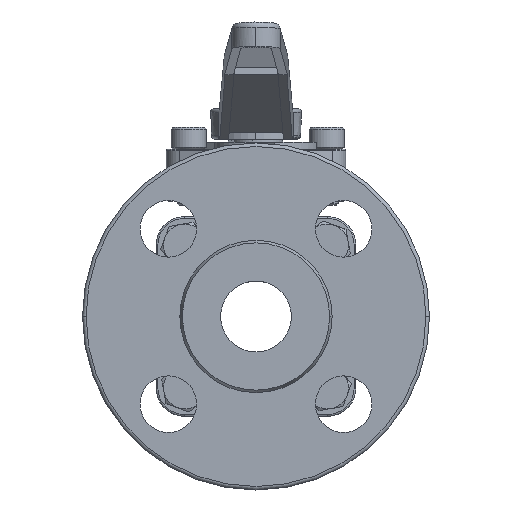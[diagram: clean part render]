
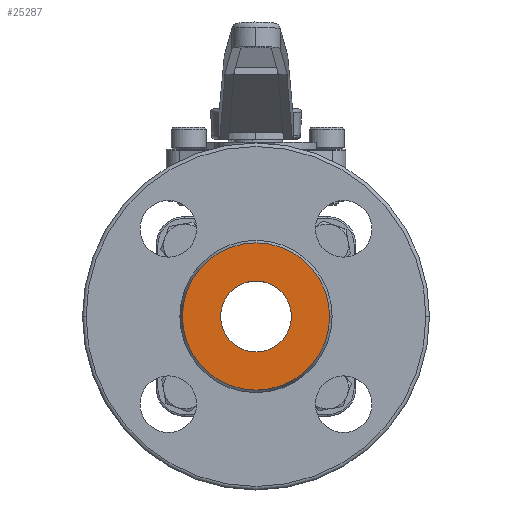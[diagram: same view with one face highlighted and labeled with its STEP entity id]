
A CAD part, left-side view. The second image highlights one B-rep face of the part: STEP entity #25287.
In plain terms, the highlighted planar face has unit normal (-1, 0, 0).
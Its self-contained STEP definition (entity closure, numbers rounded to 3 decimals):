
#8494 = EDGE_CURVE('',#8495,#8497,#8499,.T.);
#8495 = VERTEX_POINT('',#8496);
#8496 = CARTESIAN_POINT('',(-75.384,5.274,
    0.));
#8497 = VERTEX_POINT('',#8498);
#8498 = CARTESIAN_POINT('',(-75.384,-36.311,
    0.));
#8499 = SURFACE_CURVE('',#8500,(#8505,#8517),.PCURVE_S1.);
#8500 = CIRCLE('',#8501,20.792);
#8501 = AXIS2_PLACEMENT_3D('',#8502,#8503,#8504);
#8502 = CARTESIAN_POINT('',(-75.384,-15.519,0.));
#8503 = DIRECTION('',(1.,0.,0.));
#8504 = DIRECTION('',(-0.,1.,0.));
#8505 = PCURVE('',#8506,#8511);
#8506 = CONICAL_SURFACE('',#8507,21.5,0.416);
#8507 = AXIS2_PLACEMENT_3D('',#8508,#8509,#8510);
#8508 = CARTESIAN_POINT('',(-73.784,-15.519,0.));
#8509 = DIRECTION('',(1.,0.,0.));
#8510 = DIRECTION('',(-0.,1.,0.));
#8511 = DEFINITIONAL_REPRESENTATION('',(#8512),#8516);
#8512 = LINE('',#8513,#8514);
#8513 = CARTESIAN_POINT('',(0.,-1.6));
#8514 = VECTOR('',#8515,1.);
#8515 = DIRECTION('',(1.,0.));
#8516 = ( GEOMETRIC_REPRESENTATION_CONTEXT(2) 
PARAMETRIC_REPRESENTATION_CONTEXT() REPRESENTATION_CONTEXT('2D SPACE',''
  ) );
#8517 = PCURVE('',#8518,#8523);
#8518 = PLANE('',#8519);
#8519 = AXIS2_PLACEMENT_3D('',#8520,#8521,#8522);
#8520 = CARTESIAN_POINT('',(-75.384,-15.519,
    28.497));
#8521 = DIRECTION('',(1.,0.,0.));
#8522 = DIRECTION('',(-0.,1.,0.));
#8523 = DEFINITIONAL_REPRESENTATION('',(#8524),#8528);
#8524 = CIRCLE('',#8525,20.792);
#8525 = AXIS2_PLACEMENT_2D('',#8526,#8527);
#8526 = CARTESIAN_POINT('',(0.,-28.497));
#8527 = DIRECTION('',(1.,0.));
#8528 = ( GEOMETRIC_REPRESENTATION_CONTEXT(2) 
PARAMETRIC_REPRESENTATION_CONTEXT() REPRESENTATION_CONTEXT('2D SPACE',''
  ) );
#8546 = CONICAL_SURFACE('',#8547,21.5,0.416);
#8547 = AXIS2_PLACEMENT_3D('',#8548,#8549,#8550);
#8548 = CARTESIAN_POINT('',(-73.784,-15.519,0.));
#8549 = DIRECTION('',(1.,0.,0.));
#8550 = DIRECTION('',(-0.,1.,0.));
#11096 = CYLINDRICAL_SURFACE('',#11097,10.);
#11097 = AXIS2_PLACEMENT_3D('',#11098,#11099,#11100);
#11098 = CARTESIAN_POINT('',(-85.469,-15.519,0.));
#11099 = DIRECTION('',(-1.,0.,0.));
#11100 = DIRECTION('',(-0.,-1.,0.));
#11112 = VERTEX_POINT('',#11113);
#11113 = CARTESIAN_POINT('',(-75.384,-25.519,
    0.));
#11127 = CYLINDRICAL_SURFACE('',#11128,10.);
#11128 = AXIS2_PLACEMENT_3D('',#11129,#11130,#11131);
#11129 = CARTESIAN_POINT('',(-85.469,-15.519,0.));
#11130 = DIRECTION('',(-1.,0.,0.));
#11131 = DIRECTION('',(-0.,-1.,0.));
#11139 = EDGE_CURVE('',#11140,#11112,#11142,.T.);
#11140 = VERTEX_POINT('',#11141);
#11141 = CARTESIAN_POINT('',(-75.384,-5.519,
    0.));
#11142 = SURFACE_CURVE('',#11143,(#11148,#11155),.PCURVE_S1.);
#11143 = CIRCLE('',#11144,10.);
#11144 = AXIS2_PLACEMENT_3D('',#11145,#11146,#11147);
#11145 = CARTESIAN_POINT('',(-75.384,-15.519,0.));
#11146 = DIRECTION('',(-1.,0.,0.));
#11147 = DIRECTION('',(0.,1.,0.));
#11148 = PCURVE('',#11096,#11149);
#11149 = DEFINITIONAL_REPRESENTATION('',(#11150),#11154);
#11150 = LINE('',#11151,#11152);
#11151 = CARTESIAN_POINT('',(3.142,-10.085));
#11152 = VECTOR('',#11153,1.);
#11153 = DIRECTION('',(1.,0.));
#11154 = ( GEOMETRIC_REPRESENTATION_CONTEXT(2) 
PARAMETRIC_REPRESENTATION_CONTEXT() REPRESENTATION_CONTEXT('2D SPACE',''
  ) );
#11155 = PCURVE('',#8518,#11156);
#11156 = DEFINITIONAL_REPRESENTATION('',(#11157),#11165);
#11157 = ( BOUNDED_CURVE() B_SPLINE_CURVE(2,(#11158,#11159,#11160,#11161
    ,#11162,#11163,#11164),.UNSPECIFIED.,.T.,.F.) 
B_SPLINE_CURVE_WITH_KNOTS((1,2,2,2,2,1),(-2.094,0.,
    2.094,4.189,6.283,8.378),
.UNSPECIFIED.) CURVE() GEOMETRIC_REPRESENTATION_ITEM() 
RATIONAL_B_SPLINE_CURVE((1.,0.5,1.,0.5,1.,0.5,1.)) REPRESENTATION_ITEM(
  '') );
#11158 = CARTESIAN_POINT('',(10.,-28.497));
#11159 = CARTESIAN_POINT('',(10.,-45.818));
#11160 = CARTESIAN_POINT('',(-5.,-37.157));
#11161 = CARTESIAN_POINT('',(-20.,-28.497));
#11162 = CARTESIAN_POINT('',(-5.,-19.837));
#11163 = CARTESIAN_POINT('',(10.,-11.177));
#11164 = CARTESIAN_POINT('',(10.,-28.497));
#11165 = ( GEOMETRIC_REPRESENTATION_CONTEXT(2) 
PARAMETRIC_REPRESENTATION_CONTEXT() REPRESENTATION_CONTEXT('2D SPACE',''
  ) );
#25287 = ADVANCED_FACE('',(#25288,#25317),#8518,.F.);
#25288 = FACE_BOUND('',#25289,.T.);
#25289 = EDGE_LOOP('',(#25290,#25316));
#25290 = ORIENTED_EDGE('',*,*,#25291,.F.);
#25291 = EDGE_CURVE('',#11112,#11140,#25292,.T.);
#25292 = SURFACE_CURVE('',#25293,(#25298,#25309),.PCURVE_S1.);
#25293 = CIRCLE('',#25294,10.);
#25294 = AXIS2_PLACEMENT_3D('',#25295,#25296,#25297);
#25295 = CARTESIAN_POINT('',(-75.384,-15.519,0.));
#25296 = DIRECTION('',(-1.,0.,0.));
#25297 = DIRECTION('',(0.,1.,0.));
#25298 = PCURVE('',#8518,#25299);
#25299 = DEFINITIONAL_REPRESENTATION('',(#25300),#25308);
#25300 = ( BOUNDED_CURVE() B_SPLINE_CURVE(2,(#25301,#25302,#25303,#25304
    ,#25305,#25306,#25307),.UNSPECIFIED.,.T.,.F.) 
B_SPLINE_CURVE_WITH_KNOTS((1,2,2,2,2,1),(-2.094,0.,
    2.094,4.189,6.283,8.378),
.UNSPECIFIED.) CURVE() GEOMETRIC_REPRESENTATION_ITEM() 
RATIONAL_B_SPLINE_CURVE((1.,0.5,1.,0.5,1.,0.5,1.)) REPRESENTATION_ITEM(
  '') );
#25301 = CARTESIAN_POINT('',(10.,-28.497));
#25302 = CARTESIAN_POINT('',(10.,-45.818));
#25303 = CARTESIAN_POINT('',(-5.,-37.157));
#25304 = CARTESIAN_POINT('',(-20.,-28.497));
#25305 = CARTESIAN_POINT('',(-5.,-19.837));
#25306 = CARTESIAN_POINT('',(10.,-11.177));
#25307 = CARTESIAN_POINT('',(10.,-28.497));
#25308 = ( GEOMETRIC_REPRESENTATION_CONTEXT(2) 
PARAMETRIC_REPRESENTATION_CONTEXT() REPRESENTATION_CONTEXT('2D SPACE',''
  ) );
#25309 = PCURVE('',#11127,#25310);
#25310 = DEFINITIONAL_REPRESENTATION('',(#25311),#25315);
#25311 = LINE('',#25312,#25313);
#25312 = CARTESIAN_POINT('',(-3.142,-10.085));
#25313 = VECTOR('',#25314,1.);
#25314 = DIRECTION('',(1.,0.));
#25315 = ( GEOMETRIC_REPRESENTATION_CONTEXT(2) 
PARAMETRIC_REPRESENTATION_CONTEXT() REPRESENTATION_CONTEXT('2D SPACE',''
  ) );
#25316 = ORIENTED_EDGE('',*,*,#11139,.F.);
#25317 = FACE_BOUND('',#25318,.T.);
#25318 = EDGE_LOOP('',(#25319,#25320));
#25319 = ORIENTED_EDGE('',*,*,#8494,.F.);
#25320 = ORIENTED_EDGE('',*,*,#25321,.F.);
#25321 = EDGE_CURVE('',#8497,#8495,#25322,.T.);
#25322 = SURFACE_CURVE('',#25323,(#25328,#25335),.PCURVE_S1.);
#25323 = CIRCLE('',#25324,20.792);
#25324 = AXIS2_PLACEMENT_3D('',#25325,#25326,#25327);
#25325 = CARTESIAN_POINT('',(-75.384,-15.519,0.));
#25326 = DIRECTION('',(1.,0.,0.));
#25327 = DIRECTION('',(-0.,1.,0.));
#25328 = PCURVE('',#8518,#25329);
#25329 = DEFINITIONAL_REPRESENTATION('',(#25330),#25334);
#25330 = CIRCLE('',#25331,20.792);
#25331 = AXIS2_PLACEMENT_2D('',#25332,#25333);
#25332 = CARTESIAN_POINT('',(0.,-28.497));
#25333 = DIRECTION('',(1.,0.));
#25334 = ( GEOMETRIC_REPRESENTATION_CONTEXT(2) 
PARAMETRIC_REPRESENTATION_CONTEXT() REPRESENTATION_CONTEXT('2D SPACE',''
  ) );
#25335 = PCURVE('',#8546,#25336);
#25336 = DEFINITIONAL_REPRESENTATION('',(#25337),#25341);
#25337 = LINE('',#25338,#25339);
#25338 = CARTESIAN_POINT('',(0.,-1.6));
#25339 = VECTOR('',#25340,1.);
#25340 = DIRECTION('',(1.,0.));
#25341 = ( GEOMETRIC_REPRESENTATION_CONTEXT(2) 
PARAMETRIC_REPRESENTATION_CONTEXT() REPRESENTATION_CONTEXT('2D SPACE',''
  ) );
